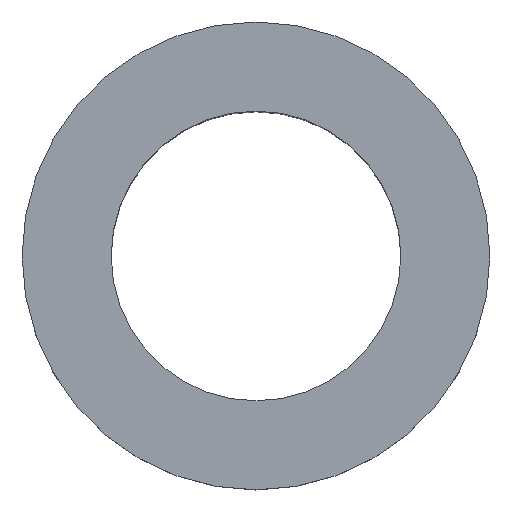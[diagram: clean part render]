
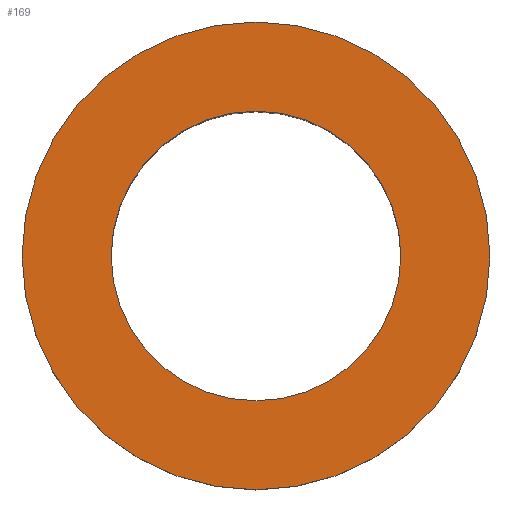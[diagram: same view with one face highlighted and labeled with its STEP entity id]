
A CAD part, top view. The second image highlights one B-rep face of the part: STEP entity #169.
In plain terms, the highlighted planar face has unit normal (0, 0, 1).
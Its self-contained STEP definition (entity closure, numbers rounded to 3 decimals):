
#169=ADVANCED_FACE('',(#193,#194),#190,.T.);
#190=PLANE('',#402);
#193=FACE_BOUND('',#199,.T.);
#194=FACE_BOUND('',#200,.T.);
#199=EDGE_LOOP('',(#223,#224));
#200=EDGE_LOOP('',(#225,#226));
#223=ORIENTED_EDGE('',*,*,#331,.T.);
#224=ORIENTED_EDGE('',*,*,#332,.T.);
#225=ORIENTED_EDGE('',*,*,#333,.F.);
#226=ORIENTED_EDGE('',*,*,#334,.F.);
#307=VERTEX_POINT('',#555);
#308=VERTEX_POINT('',#556);
#309=VERTEX_POINT('',#559);
#310=VERTEX_POINT('',#560);
#331=EDGE_CURVE('',#307,#308,#373,.T.);
#332=EDGE_CURVE('',#308,#307,#374,.T.);
#333=EDGE_CURVE('',#309,#310,#375,.T.);
#334=EDGE_CURVE('',#310,#309,#376,.T.);
#373=CIRCLE('',#398,10.5);
#374=CIRCLE('',#399,10.5);
#375=CIRCLE('',#400,6.5);
#376=CIRCLE('',#401,6.5);
#398=AXIS2_PLACEMENT_3D('',#554,#445,#446);
#399=AXIS2_PLACEMENT_3D('',#557,#447,#448);
#400=AXIS2_PLACEMENT_3D('',#558,#449,#450);
#401=AXIS2_PLACEMENT_3D('',#561,#451,#452);
#402=AXIS2_PLACEMENT_3D('',#562,#453,#454);
#445=DIRECTION('',(0.,0.,1.));
#446=DIRECTION('',(0.,1.,0.));
#447=DIRECTION('',(0.,0.,1.));
#448=DIRECTION('',(0.,-1.,0.));
#449=DIRECTION('',(0.,0.,1.));
#450=DIRECTION('',(0.,-1.,0.));
#451=DIRECTION('',(0.,0.,1.));
#452=DIRECTION('',(0.,1.,0.));
#453=DIRECTION('',(0.,0.,1.));
#454=DIRECTION('',(0.,1.,0.));
#554=CARTESIAN_POINT('',(0.,0.,3.));
#555=CARTESIAN_POINT('',(-10.5,0.,3.));
#556=CARTESIAN_POINT('',(10.5,0.,3.));
#557=CARTESIAN_POINT('',(0.,0.,3.));
#558=CARTESIAN_POINT('',(0.,0.,3.));
#559=CARTESIAN_POINT('',(6.5,0.,3.));
#560=CARTESIAN_POINT('',(-6.5,0.,3.));
#561=CARTESIAN_POINT('',(0.,0.,3.));
#562=CARTESIAN_POINT('',(0.,0.,3.));
